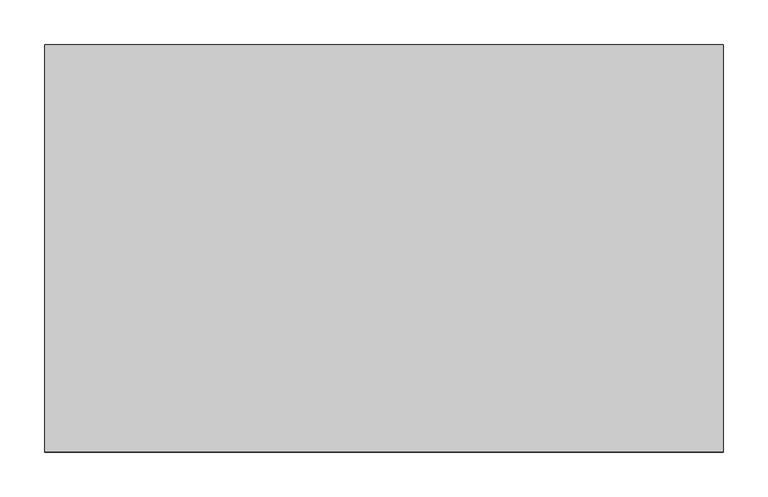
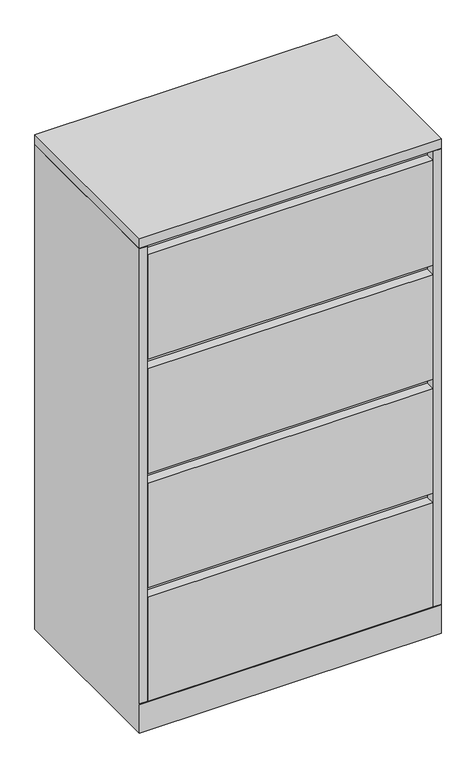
"""IFC4 building model written with IfcOpenShell, lengths in millimetres: furniture geometry, Steelcase - Universal Storage - Lateral File - 3 and 4 High - Flush Steel : 4 Drawers - 18D x 30W."""

from ifc_helpers import new_model, si_unit, frame, origin, place, context, project, spatial, polyline, outline, extrude, faceted_brep, source, transform, mapped, element, save


def furniture_105ddaf3(model_context):
    return source(origin(), model_context, "Body", "SolidModel", [
        extrude(outline(polyline([(762.0, 457.2), (762.0, 0.0), (0.0, 0.0), (0.0, 457.2), (762.0, 457.2)])), frame((0.0, 0.0, 1295.4), z_axis=(0.0, 0.0, 1.0), x_axis=(1.0, 0.0, 0.0)), (0.0, 0.0, 1.0), 25.4),
        faceted_brep([(762.0, 0.0, 0.0), (762.0, 457.2, 0.0), (762.0, 457.2, 1293.8759651), (762.0, 0.0, 1293.8759651), (762.0, 0.0, 77.7239985), (762.0, 1.524, 77.7239985), (762.0, 1.524, 76.2), (762.0, 0.0, 76.2), (0.0, 0.0, 0.0), (0.0, 0.0, 76.2), (0.0, 1.524, 76.2), (0.0, 1.524, 77.7239985), (0.0, 0.0, 77.7239985), (0.0, 0.0, 1293.8759651), (0.0, 457.2, 1293.8759651), (0.0, 457.2, 0.0), (19.304, 0.0, 1293.8759651), (19.304, 25.4000121, 1293.8759651), (742.696, 25.4000121, 1293.8759651), (742.696, 0.0, 1293.8759651), (19.304, 25.4000121, 101.600003), (742.696, 25.4000121, 101.600003), (19.304, 1.524, 101.600003), (742.696, 1.524, 101.600003), (742.696, 1.524, 77.7239985), (19.304, 1.524, 77.7239985), (19.304, 0.0, 77.7239985), (742.696, 0.0, 77.7239985)], [[[0, 1, 2, 3, 4, 5, 6, 7]], [[8, 9, 10, 11, 12, 13, 14, 15]], [[1, 0, 8, 15]], [[2, 1, 15, 14]], [[3, 2, 14, 13, 16, 17, 18, 19]], [[17, 20, 21, 18]], [[20, 22, 23, 21]], [[10, 6, 5, 24, 23, 22, 25, 11]], [[7, 6, 10, 9]], [[0, 7, 9, 8]], [[17, 16, 26, 25, 22, 20]], [[26, 16, 13, 12]], [[25, 26, 12, 11]], [[24, 27, 19, 18, 21, 23]], [[27, 24, 5, 4]], [[19, 27, 4, 3]]]),
        extrude(outline(polyline([(736.6000242, 431.7999992), (736.6000242, 25.4000121), (25.4000008, 25.4000121), (25.4000008, 431.7999992), (736.6000242, 431.7999992)])), frame((0.0, 0.0, 1293.8759651), z_axis=(0.0, 0.0, 1.0), x_axis=(1.0, 0.0, 0.0)), (0.0, 0.0, 1.0), 1.5240349),
        extrude(outline(polyline([(741.1719835, 0.0), (20.8280006, 0.0), (20.8280006, 25.4000121), (741.1719835, 25.4000121), (741.1719835, 0.0)])), frame((0.0, 0.0, 990.6), z_axis=(0.0, 0.0, 1.0), x_axis=(1.0, 0.0, 0.0)), (0.0, 0.0, 1.0), 279.4),
        extrude(outline(polyline([(741.1719835, 0.0), (20.8280006, 0.0), (20.8280006, 25.4000121), (741.1719835, 25.4000121), (741.1719835, 0.0)])), frame((0.0, 0.0, 685.8), z_axis=(0.0, 0.0, 1.0), x_axis=(1.0, 0.0, 0.0)), (0.0, 0.0, 1.0), 279.4),
        extrude(outline(polyline([(741.1719835, 0.0), (20.8280006, 0.0), (20.8280006, 25.4000121), (741.1719835, 25.4000121), (741.1719835, 0.0)])), frame((0.0, 0.0, 381.0), z_axis=(0.0, 0.0, 1.0), x_axis=(1.0, 0.0, 0.0)), (0.0, 0.0, 1.0), 279.4),
        extrude(outline(polyline([(741.1719835, 0.0), (20.8280006, 0.0), (20.8280006, 25.4000121), (741.1719835, 25.4000121), (741.1719835, 0.0)])), frame((0.0, 0.0, 77.7239985), z_axis=(0.0, 0.0, 1.0), x_axis=(1.0, 0.0, 0.0)), (0.0, 0.0, 1.0), 277.8759893),
    ])


if __name__ == "__main__":
    model = new_model("IFC4")
    model_context = context("Model", 3, world=origin())
    ifc_project = project(units=[si_unit("LENGTHUNIT", "METRE", prefix="MILLI")], contexts=[model_context])
    site = spatial("IfcSite", under=ifc_project)
    building = spatial("IfcBuilding", under=site)
    placement = place(None, origin())
    furniture_shape = furniture_105ddaf3(model_context)
    element("IfcFurniture", 1, ObjectType="Steelcase - Universal Storage - Lateral File - 3 and 4 High - Flush Steel : 4 Drawers - 18D x 30W", at=placement, inside=building, context=model_context, shape_type="MappedRepresentation", body=[
        mapped(furniture_shape, transform((0.0, 0.0, 0.0), x_axis=(1.0, 0.0, 0.0), y_axis=(0.0, 1.0, 0.0), z_axis=(0.0, 0.0, 1.0))),
    ])
    save(model, "model.ifc")
